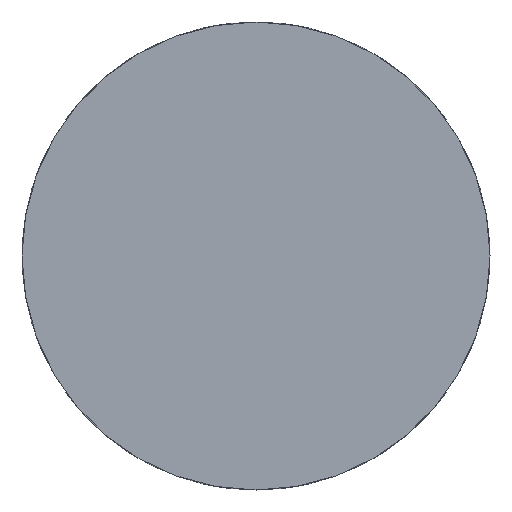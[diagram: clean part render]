
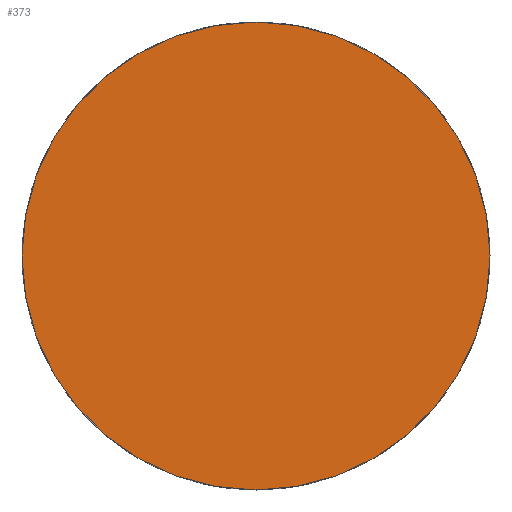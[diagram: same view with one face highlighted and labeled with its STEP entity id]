
A CAD part, left-side view. The second image highlights one B-rep face of the part: STEP entity #373.
In plain terms, the highlighted planar face has unit normal (-1, 0, 0).
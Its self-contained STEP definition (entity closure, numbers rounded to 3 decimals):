
#373 = ADVANCED_FACE( '', ( #785 ), #786, .F. );
#785 = FACE_OUTER_BOUND( '', #1234, .T. );
#786 = PLANE( '', #1235 );
#1234 = EDGE_LOOP( '', ( #2378 ) );
#1235 = AXIS2_PLACEMENT_3D( '', #2379, #2380, #2381 );
#2378 = ORIENTED_EDGE( '', *, *, #3326, .F. );
#2379 = CARTESIAN_POINT( '', ( 0., 0., 0. ) );
#2380 = DIRECTION( '', ( 1., 0., 0. ) );
#2381 = DIRECTION( '', ( 0., 0., -1. ) );
#3326 = EDGE_CURVE( '', #4190, #4190, #4191, .T. );
#4190 = VERTEX_POINT( '', #5283 );
#4191 = CIRCLE( '', #5284, 8.215 );
#5283 = CARTESIAN_POINT( '', ( 0., 0., -8.215 ) );
#5284 = AXIS2_PLACEMENT_3D( '', #6140, #6141, #6142 );
#6140 = CARTESIAN_POINT( '', ( 0., 0., 0. ) );
#6141 = DIRECTION( '', ( 1., 0., 0. ) );
#6142 = DIRECTION( '', ( 0., 0., -1. ) );
